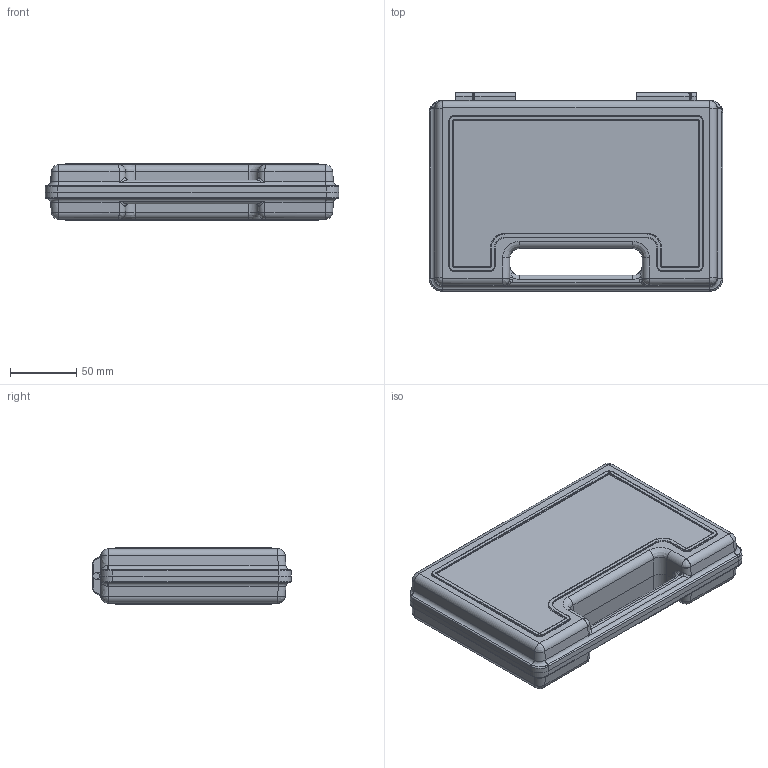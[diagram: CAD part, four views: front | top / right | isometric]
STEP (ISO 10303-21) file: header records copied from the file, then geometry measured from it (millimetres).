
FILE_DESCRIPTION(/* description */ (''),/* implementation_level */ '2;1');
FILE_NAME(/* name */ 'T17_Case_OT-UT.stp',/* time_stamp */ '2014-10-06T09:35:37+02:00',/* author */ (''),/* organization */ (''),/* preprocessor_version */ 'ST-DEVELOPER v15',/* originating_system */ 'SIEMENS PLM Software NX 8.5',/* authorisation */ '');
FILE_SCHEMA (('AUTOMOTIVE_DESIGN { 1 0 10303 214 3 1 1 1 }'));
Length unit declared in the file: millimetre
Products named in the file (1): pk1A9099730gvs
Bounding box: 222 x 149.95 x 43 mm (x, y, z)
Volume: 227492.9 mm3; surface area: 180386.4 mm2
Topology: 2 solids, 2 shells, 702 faces, 1690 edges, 962 vertices
Faces by surface type: cylinder 270, plane 176, bspline 164, torus 68, sphere 24
Entity records: 23791 total; most frequent: CARTESIAN_POINT 8717, ORIENTED_EDGE 3296, DIRECTION 3010, EDGE_CURVE 1648, AXIS2_PLACEMENT_3D 1157, VERTEX_POINT 962, EDGE_LOOP 718, ADVANCED_FACE 702
